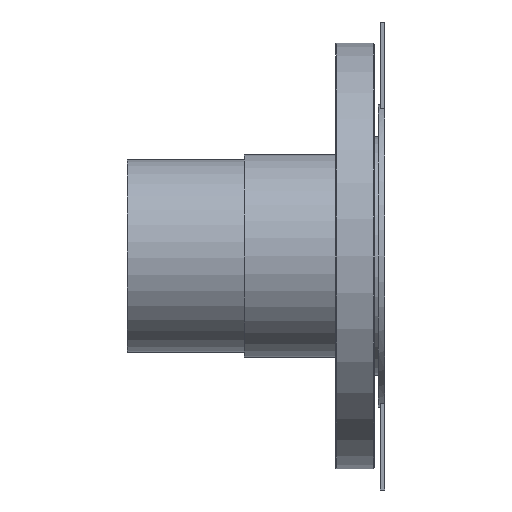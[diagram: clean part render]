
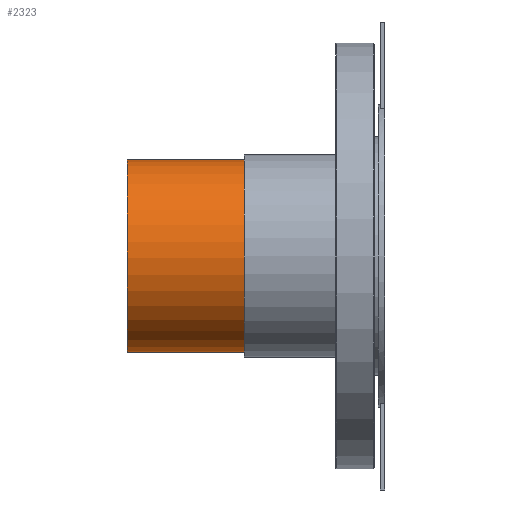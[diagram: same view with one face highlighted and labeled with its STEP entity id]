
A CAD part, front view. The second image highlights one B-rep face of the part: STEP entity #2323.
In plain terms, the highlighted cylindrical face has radius 45.2 mm (diameter 90.4 mm), a partial arc.
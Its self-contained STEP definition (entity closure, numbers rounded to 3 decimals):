
#164 = VERTEX_POINT ( 'NONE', #2149 ) ;
#170 = VERTEX_POINT ( 'NONE', #2155 ) ;
#171 = VERTEX_POINT ( 'NONE', #2156 ) ;
#524 = AXIS2_PLACEMENT_3D ( 'NONE', #987, #996, #997 ) ;
#623 = CIRCLE ( 'NONE', #626, 45.2 ) ;
#626 = AXIS2_PLACEMENT_3D ( 'NONE', #1135, #1136, #1137 ) ;
#665 = CARTESIAN_POINT ( 'NONE',  ( -104.391, -13.755, 63.113 ) ) ;
#668 = LINE ( 'NONE', #665, #2441 ) ;
#673 = DIRECTION ( 'NONE',  ( 1., 0., 0. ) ) ;
#747 = CARTESIAN_POINT ( 'NONE',  ( 0.609, -12.684, 17.926 ) ) ;
#748 = DIRECTION ( 'NONE',  ( -1., 0., 0. ) ) ;
#749 = DIRECTION ( 'NONE',  ( 0., -0.024, 1. ) ) ;
#874 = EDGE_CURVE ( 'NONE', #164, #171, #668, .T. ) ;
#911 = EDGE_CURVE ( 'NONE', #1499, #170, #1590, .T. ) ;
#981 = FACE_OUTER_BOUND ( 'NONE', #2725, .T. ) ;
#986 = CYLINDRICAL_SURFACE ( 'NONE', #524, 45.2 ) ;
#987 = CARTESIAN_POINT ( 'NONE',  ( -104.391, -12.684, 17.926 ) ) ;
#996 = DIRECTION ( 'NONE',  ( 1., 0., 0. ) ) ;
#997 = DIRECTION ( 'NONE',  ( 0., 0.024, -1. ) ) ;
#1135 = CARTESIAN_POINT ( 'NONE',  ( -104.391, -12.684, 17.926 ) ) ;
#1136 = DIRECTION ( 'NONE',  ( -1., 0., 0. ) ) ;
#1137 = DIRECTION ( 'NONE',  ( 0., -0.024, 1. ) ) ;
#1165 = CIRCLE ( 'NONE', #1172, 45.2 ) ;
#1172 = AXIS2_PLACEMENT_3D ( 'NONE', #747, #748, #749 ) ;
#1499 = VERTEX_POINT ( 'NONE', #1643 ) ;
#1590 = LINE ( 'NONE', #1591, #2399 ) ;
#1591 = CARTESIAN_POINT ( 'NONE',  ( -104.391, -11.613, -27.261 ) ) ;
#1601 = DIRECTION ( 'NONE',  ( 1., 0., 0. ) ) ;
#1643 = CARTESIAN_POINT ( 'NONE',  ( -104.391, -11.613, -27.261 ) ) ;
#1675 = EDGE_CURVE ( 'NONE', #170, #171, #1165, .T. ) ;
#2149 = CARTESIAN_POINT ( 'NONE',  ( -104.391, -13.755, 63.113 ) ) ;
#2155 = CARTESIAN_POINT ( 'NONE',  ( 0.609, -11.613, -27.261 ) ) ;
#2156 = CARTESIAN_POINT ( 'NONE',  ( 0.609, -13.755, 63.113 ) ) ;
#2323 = ADVANCED_FACE ( 'NONE', ( #981 ), #986, .T. ) ;
#2399 = VECTOR ( 'NONE', #1601, 1000. ) ;
#2441 = VECTOR ( 'NONE', #673, 1000. ) ;
#2495 = ORIENTED_EDGE ( 'NONE', *, *, #1675, .T. ) ;
#2497 = ORIENTED_EDGE ( 'NONE', *, *, #911, .T. ) ;
#2667 = EDGE_CURVE ( 'NONE', #1499, #164, #623, .T. ) ;
#2725 = EDGE_LOOP ( 'NONE', ( #2803, #2804, #2497, #2495 ) ) ;
#2803 = ORIENTED_EDGE ( 'NONE', *, *, #874, .F. ) ;
#2804 = ORIENTED_EDGE ( 'NONE', *, *, #2667, .F. ) ;
